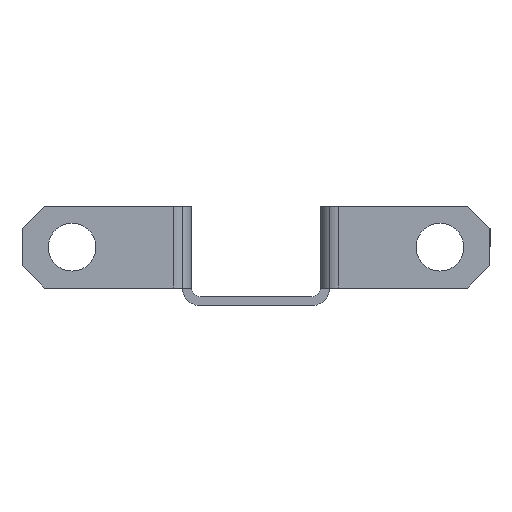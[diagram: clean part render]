
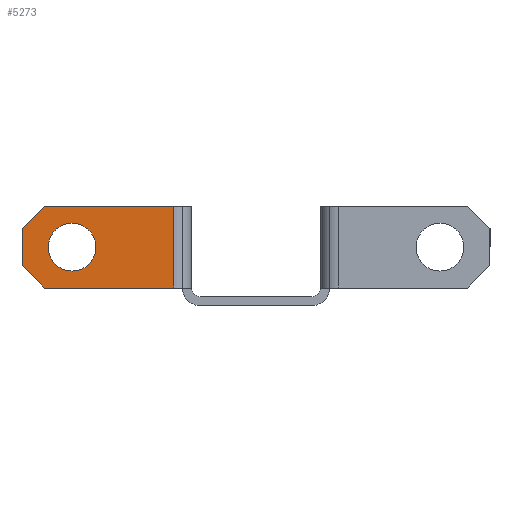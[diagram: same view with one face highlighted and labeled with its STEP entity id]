
A CAD part, left-side view. The second image highlights one B-rep face of the part: STEP entity #5273.
In plain terms, the highlighted planar face has unit normal (-1, 0, 0).
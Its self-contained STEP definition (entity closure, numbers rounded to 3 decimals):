
#796 = DIRECTION ( 'NONE',  ( -1., 0., 0. ) ) ;
#877 = EDGE_LOOP ( 'NONE', ( #2541, #2234 ) ) ;
#946 = ORIENTED_EDGE ( 'NONE', *, *, #4319, .T. ) ;
#1033 = VERTEX_POINT ( 'NONE', #4716 ) ;
#1117 = VERTEX_POINT ( 'NONE', #1290 ) ;
#1219 = ORIENTED_EDGE ( 'NONE', *, *, #1252, .T. ) ;
#1252 = EDGE_CURVE ( 'NONE', #7662, #1117, #6494, .T. ) ;
#1290 = CARTESIAN_POINT ( 'NONE',  ( -342.5, 28.8, 2.4 ) ) ;
#1307 = DIRECTION ( 'NONE',  ( 0., 1., 0. ) ) ;
#1339 = CARTESIAN_POINT ( 'NONE',  ( -342.5, 11.2, 2.4 ) ) ;
#1470 = ORIENTED_EDGE ( 'NONE', *, *, #6709, .T. ) ;
#1553 = EDGE_CURVE ( 'NONE', #5750, #6205, #4429, .T. ) ;
#1672 = AXIS2_PLACEMENT_3D ( 'NONE', #6597, #3512, #2371 ) ;
#1816 = LINE ( 'NONE', #7490, #3672 ) ;
#2234 = ORIENTED_EDGE ( 'NONE', *, *, #2723, .F. ) ;
#2371 = DIRECTION ( 'NONE',  ( 0., 1., 0. ) ) ;
#2375 = CARTESIAN_POINT ( 'NONE',  ( -342.5, 31.8, 0. ) ) ;
#2400 = CIRCLE ( 'NONE', #4235, 3.25 ) ;
#2541 = ORIENTED_EDGE ( 'NONE', *, *, #3503, .F. ) ;
#2548 = DIRECTION ( 'NONE',  ( 0., 0., -1. ) ) ;
#2723 = EDGE_CURVE ( 'NONE', #3008, #5787, #6302, .T. ) ;
#2885 = CARTESIAN_POINT ( 'NONE',  ( -342.5, 28.25, 7.95 ) ) ;
#2928 = PLANE ( 'NONE',  #1672 ) ;
#3008 = VERTEX_POINT ( 'NONE', #2885 ) ;
#3227 = FACE_BOUND ( 'NONE', #877, .T. ) ;
#3231 = DIRECTION ( 'NONE',  ( 0., -0.707, -0.707 ) ) ;
#3303 = DIRECTION ( 'NONE',  ( -1., 0., 0. ) ) ;
#3351 = VECTOR ( 'NONE', #3231, 1000. ) ;
#3420 = FACE_OUTER_BOUND ( 'NONE', #3693, .T. ) ;
#3465 = ORIENTED_EDGE ( 'NONE', *, *, #6520, .T. ) ;
#3503 = EDGE_CURVE ( 'NONE', #5787, #3008, #2400, .T. ) ;
#3512 = DIRECTION ( 'NONE',  ( 1., 0., 0. ) ) ;
#3606 = AXIS2_PLACEMENT_3D ( 'NONE', #6294, #796, #4460 ) ;
#3672 = VECTOR ( 'NONE', #6952, 1000. ) ;
#3693 = EDGE_LOOP ( 'NONE', ( #7619, #946, #3465, #1219, #1470, #5715 ) ) ;
#3783 = CARTESIAN_POINT ( 'NONE',  ( -342.5, 31.8, 5.4 ) ) ;
#4060 = VECTOR ( 'NONE', #7273, 1000. ) ;
#4235 = AXIS2_PLACEMENT_3D ( 'NONE', #5169, #3303, #6384 ) ;
#4259 = CARTESIAN_POINT ( 'NONE',  ( -342.5, 0., 13.5 ) ) ;
#4281 = VECTOR ( 'NONE', #6786, 1000. ) ;
#4319 = EDGE_CURVE ( 'NONE', #6018, #1033, #5116, .T. ) ;
#4429 = LINE ( 'NONE', #5012, #6904 ) ;
#4437 = VECTOR ( 'NONE', #1307, 1000. ) ;
#4460 = DIRECTION ( 'NONE',  ( 0., -1., 0. ) ) ;
#4624 = LINE ( 'NONE', #4259, #4437 ) ;
#4634 = LINE ( 'NONE', #2375, #4060 ) ;
#4647 = CARTESIAN_POINT ( 'NONE',  ( -342.5, 21.75, 7.95 ) ) ;
#4716 = CARTESIAN_POINT ( 'NONE',  ( -342.5, 31.8, 10.5 ) ) ;
#5012 = CARTESIAN_POINT ( 'NONE',  ( -342.5, 11.2, 2.4 ) ) ;
#5116 = LINE ( 'NONE', #7243, #4281 ) ;
#5169 = CARTESIAN_POINT ( 'NONE',  ( -342.5, 25., 7.95 ) ) ;
#5273 = ADVANCED_FACE ( 'NONE', ( #3227, #3420 ), #2928, .F. ) ;
#5715 = ORIENTED_EDGE ( 'NONE', *, *, #1553, .F. ) ;
#5750 = VERTEX_POINT ( 'NONE', #6459 ) ;
#5787 = VERTEX_POINT ( 'NONE', #4647 ) ;
#6018 = VERTEX_POINT ( 'NONE', #6940 ) ;
#6205 = VERTEX_POINT ( 'NONE', #1339 ) ;
#6294 = CARTESIAN_POINT ( 'NONE',  ( -342.5, 25., 7.95 ) ) ;
#6302 = CIRCLE ( 'NONE', #3606, 3.25 ) ;
#6316 = CARTESIAN_POINT ( 'NONE',  ( -342.5, 28.8, 2.4 ) ) ;
#6384 = DIRECTION ( 'NONE',  ( 0., -1., 0. ) ) ;
#6459 = CARTESIAN_POINT ( 'NONE',  ( -342.5, 11.2, 13.5 ) ) ;
#6494 = LINE ( 'NONE', #6316, #3351 ) ;
#6520 = EDGE_CURVE ( 'NONE', #1033, #7662, #4634, .T. ) ;
#6597 = CARTESIAN_POINT ( 'NONE',  ( -342.5, 0., 0. ) ) ;
#6709 = EDGE_CURVE ( 'NONE', #1117, #6205, #1816, .T. ) ;
#6786 = DIRECTION ( 'NONE',  ( 0., 0.707, -0.707 ) ) ;
#6904 = VECTOR ( 'NONE', #2548, 1000. ) ;
#6940 = CARTESIAN_POINT ( 'NONE',  ( -342.5, 28.8, 13.5 ) ) ;
#6952 = DIRECTION ( 'NONE',  ( 0., -1., 0. ) ) ;
#7117 = EDGE_CURVE ( 'NONE', #5750, #6018, #4624, .T. ) ;
#7243 = CARTESIAN_POINT ( 'NONE',  ( -342.5, 31.8, 10.5 ) ) ;
#7273 = DIRECTION ( 'NONE',  ( 0., 0., -1. ) ) ;
#7490 = CARTESIAN_POINT ( 'NONE',  ( -342.5, 0., 2.4 ) ) ;
#7619 = ORIENTED_EDGE ( 'NONE', *, *, #7117, .T. ) ;
#7662 = VERTEX_POINT ( 'NONE', #3783 ) ;
